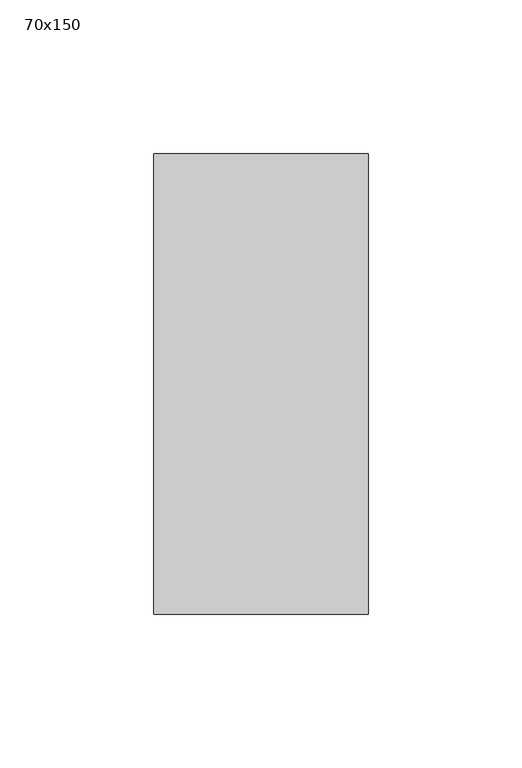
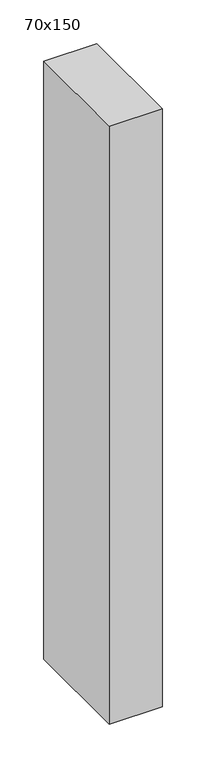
"""IFC4 building model written with IfcOpenShell, lengths in millimetres: member geometry, 長方形のマリオン : 70x150."""

from ifc_helpers import new_model, si_unit, frame, origin, place, context, project, spatial, polyline, outline, extrude, source, transform, mapped, element, save


def member_70x150_3043e185(model_context):
    return source(origin(), model_context, "Body", "SweptSolid", [
        extrude(outline(polyline([(0.0, 75.0), (0.0, -75.0), (-70.0, -75.0), (-70.0, 75.0), (0.0, 75.0)])), frame((0.0, 0.0, -835.0), z_axis=(0.0, 0.0, 1.0), x_axis=(1.0, 0.0, 0.0)), (0.0, 0.0, 1.0), 835.0),
    ])


if __name__ == "__main__":
    model = new_model("IFC4")
    model_context = context("Model", 3, world=origin())
    ifc_project = project(units=[si_unit("LENGTHUNIT", "METRE", prefix="MILLI")], contexts=[model_context])
    site = spatial("IfcSite", under=ifc_project)
    building = spatial("IfcBuilding", under=site)
    placement = place(None, origin())
    member_70x150_shape = member_70x150_3043e185(model_context)
    element("IfcMember", 1, ObjectType="長方形のマリオン : 70x150", at=placement, inside=building, context=model_context, shape_type="MappedRepresentation", body=[
        mapped(member_70x150_shape, transform((0.0, 0.0, 0.0), x_axis=(1.0, 0.0, 0.0), y_axis=(0.0, 1.0, 0.0), z_axis=(0.0, 0.0, 1.0))),
    ])
    save(model, "model.ifc")
